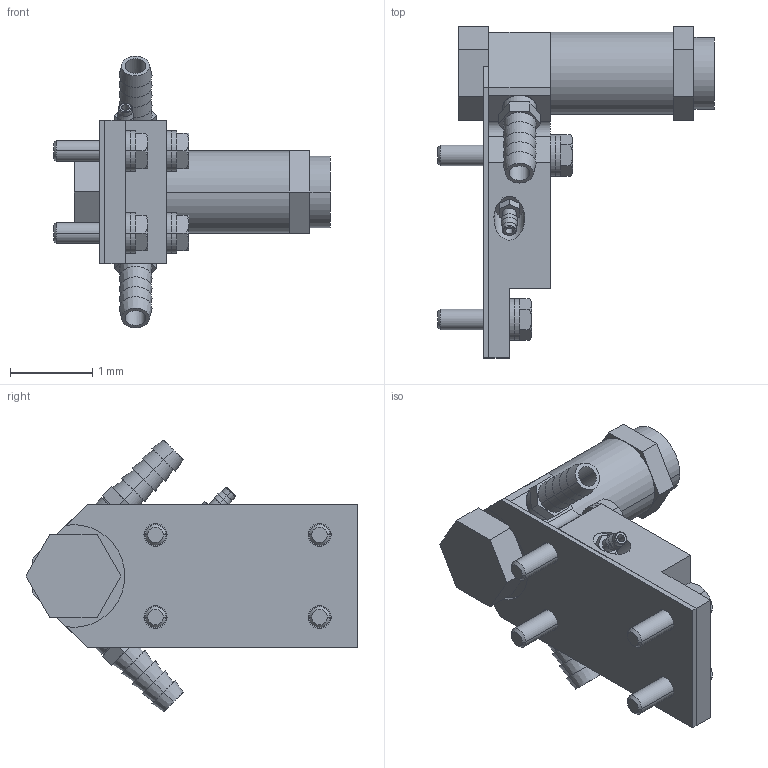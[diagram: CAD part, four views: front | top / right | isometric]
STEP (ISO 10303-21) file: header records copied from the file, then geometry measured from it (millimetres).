
FILE_DESCRIPTION((''),'2;1');
FILE_NAME('UM2.stp','2017-11-07T11:33:21',(''),(''),'Mechanical Desktop 2011','Mechanical Desktop 2011',', , ');
FILE_SCHEMA(('CONFIG_CONTROL_DESIGN'));
Length unit declared in the file: millimetre
Products named in the file (1): Product
Bounding box: 3.38 x 4.04 x 3.31 mm (x, y, z)
Volume: 6.4 mm3; surface area: 67.6 mm2
Topology: 22 solids, 22 shells, 329 faces, 715 edges, 460 vertices
Faces by surface type: plane 131, cylinder 96, cone 62, bspline 36, torus 4
Full cylindrical faces by diameter (mm): 0.375 x1
Entity records: 9657 total; most frequent: CARTESIAN_POINT 2271, DIRECTION 1574, ORIENTED_EDGE 1430, EDGE_CURVE 715, AXIS2_PLACEMENT_3D 615, VERTEX_POINT 460, EDGE_LOOP 401, VECTOR 344
